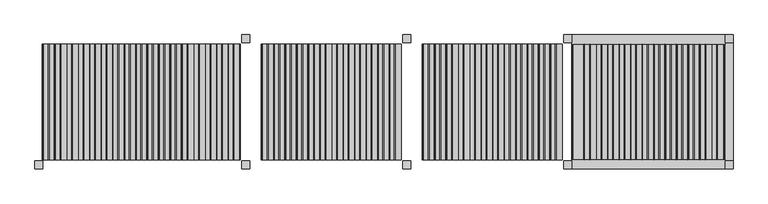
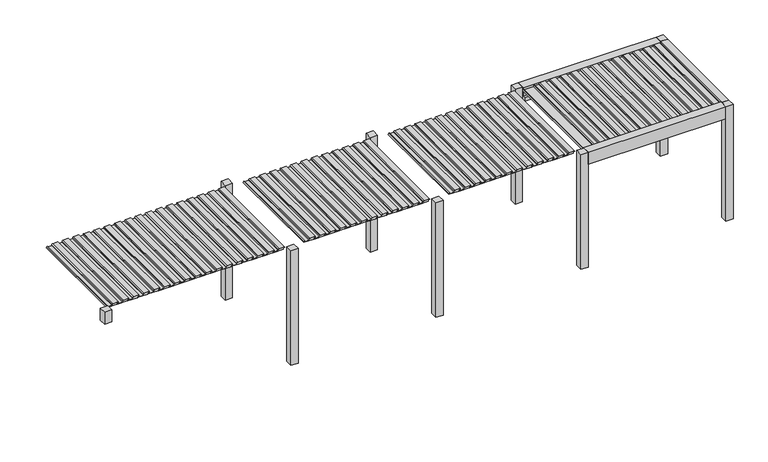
"""IFC4 building model written with IfcOpenShell, lengths in millimetres: proxy geometry, Renson_Camargue_Skye_Facade-Mounted_Patio covers : Renson_Camargue_Skye_Facade-Mounted_Patio covers."""

from ifc_helpers import new_model, si_unit, point, frame, frame_2d, origin, origin_with_axes, place, context, project, spatial, polyline, circle_curve, trimmed, segment, composite_curve, outline, extrude, source, transform, mapped, element, save


def generic_models_63c2b022(model_context):
    return source(origin(), model_context, "Body", "SweptSolid", [
        extrude(outline(composite_curve([segment(polyline([(2458.35, 10573.7289238), (2486.01198, 10576.1490335), (2487.3970364, 10604.984284), (2506.8911096, 10601.5469529), (2501.6075693, 10491.549838)]), True, "CONTINUOUS"), segment(trimmed(circle_curve(frame_2d((2486.6248435, 10492.26951)), 15.0), [point((2501.6075693, 10491.549838))], [point((2489.2295662, 10477.4973937))], False, "CARTESIAN"), True, "CONTINUOUS"), segment(polyline([(2489.2295662, 10477.4973937), (2470.0, 10474.1067023), (2470.0, 10386.3709263), (2487.0788237, 10383.3594689), (2486.3450182, 10368.0824984), (2458.35, 10365.6332517), (2458.35, 10573.7289238)]), True, "CONTINUOUS")], self_intersect=False)), frame((0.0, -1080.0, 0.0), z_axis=(0.0, 1.0, 0.0), x_axis=(0.0, 0.0, 1.0)), (0.0, 0.0, 1.0), 2160.0),
        extrude(outline(composite_curve([segment(polyline([(2458.35, 10358.7132078), (2486.01198, 10361.1333174), (2487.3970364, 10389.9685679), (2506.8911096, 10386.5312368), (2501.6075693, 10276.534122)]), True, "CONTINUOUS"), segment(trimmed(circle_curve(frame_2d((2486.6248435, 10277.2537939)), 15.0), [point((2501.6075693, 10276.534122))], [point((2489.2295662, 10262.4816776))], False, "CARTESIAN"), True, "CONTINUOUS"), segment(polyline([(2489.2295662, 10262.4816776), (2470.0, 10259.0909863), (2470.0, 10171.3552102), (2487.0788237, 10168.3437528), (2486.3450182, 10153.0667824), (2458.35, 10150.6175356), (2458.35, 10358.7132078)]), True, "CONTINUOUS")], self_intersect=False)), frame((0.0, -1080.0, 0.0), z_axis=(0.0, 1.0, 0.0), x_axis=(0.0, 0.0, 1.0)), (0.0, 0.0, 1.0), 2160.0),
        extrude(outline(composite_curve([segment(polyline([(2458.35, 10143.6974917), (2486.01198, 10146.1176014), (2487.3970364, 10174.9528519), (2506.8911096, 10171.5155208), (2501.6075693, 10061.5184059)]), True, "CONTINUOUS"), segment(trimmed(circle_curve(frame_2d((2486.6248435, 10062.2380779)), 15.0), [point((2501.6075693, 10061.5184059))], [point((2489.2295662, 10047.4659616))], False, "CARTESIAN"), True, "CONTINUOUS"), segment(polyline([(2489.2295662, 10047.4659616), (2470.0, 10044.0752702), (2470.0, 9956.3394942), (2487.0788237, 9953.3280368), (2486.3450182, 9938.0510663), (2458.35, 9935.6018196), (2458.35, 10143.6974917)]), True, "CONTINUOUS")], self_intersect=False)), frame((0.0, -1080.0, 0.0), z_axis=(0.0, 1.0, 0.0), x_axis=(0.0, 0.0, 1.0)), (0.0, 0.0, 1.0), 2160.0),
        extrude(outline(composite_curve([segment(polyline([(2458.35, 9928.6817757), (2486.01198, 9931.1018854), (2487.3970364, 9959.9371358), (2506.8911096, 9956.4998047), (2501.6075693, 9846.5026899)]), True, "CONTINUOUS"), segment(trimmed(circle_curve(frame_2d((2486.6248435, 9847.2223618)), 15.0), [point((2501.6075693, 9846.5026899))], [point((2489.2295662, 9832.4502455))], False, "CARTESIAN"), True, "CONTINUOUS"), segment(polyline([(2489.2295662, 9832.4502455), (2470.0, 9829.0595542), (2470.0, 9741.3237782), (2487.0788237, 9738.3123207), (2486.3450182, 9723.0353503), (2458.35, 9720.5861035), (2458.35, 9928.6817757)]), True, "CONTINUOUS")], self_intersect=False)), frame((0.0, -1080.0, 0.0), z_axis=(0.0, 1.0, 0.0), x_axis=(0.0, 0.0, 1.0)), (0.0, 0.0, 1.0), 2160.0),
        extrude(outline(composite_curve([segment(polyline([(2458.35, 9713.6660597), (2486.01198, 9716.0861693), (2487.3970364, 9744.9214198), (2506.8911096, 9741.4840887), (2501.6075693, 9631.4869738)]), True, "CONTINUOUS"), segment(trimmed(circle_curve(frame_2d((2486.6248435, 9632.2066458)), 15.0), [point((2501.6075693, 9631.4869738))], [point((2489.2295662, 9617.4345295))], False, "CARTESIAN"), True, "CONTINUOUS"), segment(polyline([(2489.2295662, 9617.4345295), (2470.0, 9614.0438381), (2470.0, 9526.3080621), (2487.0788237, 9523.2966047), (2486.3450182, 9508.0196342), (2458.35, 9505.5703875), (2458.35, 9713.6660597)]), True, "CONTINUOUS")], self_intersect=False)), frame((0.0, -1080.0, 0.0), z_axis=(0.0, 1.0, 0.0), x_axis=(0.0, 0.0, 1.0)), (0.0, 0.0, 1.0), 2160.0),
        extrude(outline(composite_curve([segment(polyline([(2458.35, 9498.6503436), (2486.01198, 9501.0704533), (2487.3970364, 9529.9057037), (2506.8911096, 9526.4683726), (2501.6075693, 9416.4712578)]), True, "CONTINUOUS"), segment(trimmed(circle_curve(frame_2d((2486.6248435, 9417.1909297)), 15.0), [point((2501.6075693, 9416.4712578))], [point((2489.2295662, 9402.4188134))], False, "CARTESIAN"), True, "CONTINUOUS"), segment(polyline([(2489.2295662, 9402.4188134), (2470.0, 9399.0281221), (2470.0, 9311.2923461), (2487.0788237, 9308.2808886), (2486.3450182, 9293.0039182), (2458.35, 9290.5546714), (2458.35, 9498.6503436)]), True, "CONTINUOUS")], self_intersect=False)), frame((0.0, -1080.0, 0.0), z_axis=(0.0, 1.0, 0.0), x_axis=(0.0, 0.0, 1.0)), (0.0, 0.0, 1.0), 2160.0),
        extrude(outline(composite_curve([segment(polyline([(2458.35, 9283.6346276), (2486.01198, 9286.0547372), (2487.3970364, 9314.8899877), (2506.8911096, 9311.4526566), (2501.6075693, 9201.4555418)]), True, "CONTINUOUS"), segment(trimmed(circle_curve(frame_2d((2486.6248435, 9202.1752137)), 15.0), [point((2501.6075693, 9201.4555418))], [point((2489.2295662, 9187.4030974))], False, "CARTESIAN"), True, "CONTINUOUS"), segment(polyline([(2489.2295662, 9187.4030974), (2470.0, 9184.012406), (2470.0, 9096.27663), (2487.0788237, 9093.2651726), (2486.3450182, 9077.9882021), (2458.35, 9075.5389554), (2458.35, 9283.6346276)]), True, "CONTINUOUS")], self_intersect=False)), frame((0.0, -1080.0, 0.0), z_axis=(0.0, 1.0, 0.0), x_axis=(0.0, 0.0, 1.0)), (0.0, 0.0, 1.0), 2160.0),
        extrude(outline(composite_curve([segment(polyline([(2458.35, 9068.6189115), (2486.01198, 9071.0390212), (2487.3970364, 9099.8742716), (2506.8911096, 9096.4369406), (2501.6075693, 8986.4398257)]), True, "CONTINUOUS"), segment(trimmed(circle_curve(frame_2d((2486.6248435, 8987.1594976)), 15.0), [point((2501.6075693, 8986.4398257))], [point((2489.2295662, 8972.3873813))], False, "CARTESIAN"), True, "CONTINUOUS"), segment(polyline([(2489.2295662, 8972.3873813), (2470.0, 8968.99669), (2470.0, 8881.260914), (2487.0788237, 8878.2494566), (2486.3450182, 8862.9724861), (2458.35, 8860.5232394), (2458.35, 9068.6189115)]), True, "CONTINUOUS")], self_intersect=False)), frame((0.0, -1080.0, 0.0), z_axis=(0.0, 1.0, 0.0), x_axis=(0.0, 0.0, 1.0)), (0.0, 0.0, 1.0), 2160.0),
        extrude(outline(composite_curve([segment(polyline([(2458.35, 8853.6031955), (2486.01198, 8856.0233051), (2487.3970364, 8884.8585556), (2506.8911096, 8881.4212245), (2501.6075693, 8771.4241097)]), True, "CONTINUOUS"), segment(trimmed(circle_curve(frame_2d((2486.6248435, 8772.1437816)), 15.0), [point((2501.6075693, 8771.4241097))], [point((2489.2295662, 8757.3716653))], False, "CARTESIAN"), True, "CONTINUOUS"), segment(polyline([(2489.2295662, 8757.3716653), (2470.0, 8753.980974), (2470.0, 8666.2451979), (2487.0788237, 8663.2337405), (2486.3450182, 8647.95677), (2458.35, 8645.5075233), (2458.35, 8853.6031955)]), True, "CONTINUOUS")], self_intersect=False)), frame((0.0, -1080.0, 0.0), z_axis=(0.0, 1.0, 0.0), x_axis=(0.0, 0.0, 1.0)), (0.0, 0.0, 1.0), 2160.0),
        extrude(outline(composite_curve([segment(polyline([(2458.35, 8638.5874794), (2486.01198, 8641.0075891), (2487.3970364, 8669.8428395), (2506.8911096, 8666.4055085), (2501.6075693, 8556.4083936)]), True, "CONTINUOUS"), segment(trimmed(circle_curve(frame_2d((2486.6248435, 8557.1280655)), 15.0), [point((2501.6075693, 8556.4083936))], [point((2489.2295662, 8542.3559492))], False, "CARTESIAN"), True, "CONTINUOUS"), segment(polyline([(2489.2295662, 8542.3559492), (2470.0, 8538.9652579), (2470.0, 8451.2294819), (2487.0788237, 8448.2180245), (2486.3450182, 8432.941054), (2458.35, 8430.4918073), (2458.35, 8638.5874794)]), True, "CONTINUOUS")], self_intersect=False)), frame((0.0, -1080.0, 0.0), z_axis=(0.0, 1.0, 0.0), x_axis=(0.0, 0.0, 1.0)), (0.0, 0.0, 1.0), 2160.0),
        extrude(outline(composite_curve([segment(polyline([(2458.35, 10788.7446399), (2486.01198, 10791.1647495), (2487.3970364, 10820.0), (2506.8911096, 10816.5626689), (2501.6075693, 10706.5655541)]), True, "CONTINUOUS"), segment(trimmed(circle_curve(frame_2d((2486.6248435, 10707.285226)), 15.0), [point((2501.6075693, 10706.5655541))], [point((2489.2295662, 10692.5131097))], False, "CARTESIAN"), True, "CONTINUOUS"), segment(polyline([(2489.2295662, 10692.5131097), (2470.0, 10689.1224184), (2470.0, 10601.3866423), (2487.0788237, 10598.3751849), (2486.3450182, 10583.0982144), (2458.35, 10580.6489677), (2458.35, 10788.7446399)]), True, "CONTINUOUS")], self_intersect=False)), frame((0.0, -1080.0, 0.0), z_axis=(0.0, 1.0, 0.0), x_axis=(0.0, 0.0, 1.0)), (0.0, 0.0, 1.0), 2160.0),
        extrude(outline(composite_curve([segment(polyline([(2458.35, 8423.5717634), (2486.01198, 8425.991873), (2487.3970364, 8454.8271235), (2506.8911096, 8451.3897924), (2501.6075693, 8341.3926776)]), True, "CONTINUOUS"), segment(trimmed(circle_curve(frame_2d((2486.6248435, 8342.1123495)), 15.0), [point((2501.6075693, 8341.3926776))], [point((2489.2295662, 8327.3402332))], False, "CARTESIAN"), True, "CONTINUOUS"), segment(polyline([(2489.2295662, 8327.3402332), (2470.0, 8323.9495419), (2470.0, 8236.2137658), (2487.0788237, 8233.2023084), (2486.3450182, 8217.9253379), (2458.35, 8215.4760912), (2458.35, 8423.5717634)]), True, "CONTINUOUS")], self_intersect=False)), frame((0.0, -1080.0, 0.0), z_axis=(0.0, 1.0, 0.0), x_axis=(0.0, 0.0, 1.0)), (0.0, 0.0, 1.0), 2160.0),
        extrude(outline(composite_curve([segment(polyline([(2458.35, 7573.7289238), (2486.01198, 7576.1490335), (2487.3970364, 7604.984284), (2506.8911096, 7601.5469529), (2501.6075693, 7491.549838)]), True, "CONTINUOUS"), segment(trimmed(circle_curve(frame_2d((2486.6248435, 7492.26951)), 15.0), [point((2501.6075693, 7491.549838))], [point((2489.2295662, 7477.4973937))], False, "CARTESIAN"), True, "CONTINUOUS"), segment(polyline([(2489.2295662, 7477.4973937), (2470.0, 7474.1067023), (2470.0, 7386.3709263), (2487.0788237, 7383.3594689), (2486.3450182, 7368.0824984), (2458.35, 7365.6332517), (2458.35, 7573.7289238)]), True, "CONTINUOUS")], self_intersect=False)), frame((0.0, -1080.0, 0.0), z_axis=(0.0, 1.0, 0.0), x_axis=(0.0, 0.0, 1.0)), (0.0, 0.0, 1.0), 2160.0),
        extrude(outline(composite_curve([segment(polyline([(2458.35, 7358.7132078), (2486.01198, 7361.1333174), (2487.3970364, 7389.9685679), (2506.8911096, 7386.5312368), (2501.6075693, 7276.534122)]), True, "CONTINUOUS"), segment(trimmed(circle_curve(frame_2d((2486.6248435, 7277.2537939)), 15.0), [point((2501.6075693, 7276.534122))], [point((2489.2295662, 7262.4816776))], False, "CARTESIAN"), True, "CONTINUOUS"), segment(polyline([(2489.2295662, 7262.4816776), (2470.0, 7259.0909863), (2470.0, 7171.3552102), (2487.0788237, 7168.3437528), (2486.3450182, 7153.0667824), (2458.35, 7150.6175356), (2458.35, 7358.7132078)]), True, "CONTINUOUS")], self_intersect=False)), frame((0.0, -1080.0, 0.0), z_axis=(0.0, 1.0, 0.0), x_axis=(0.0, 0.0, 1.0)), (0.0, 0.0, 1.0), 2160.0),
        extrude(outline(composite_curve([segment(polyline([(2458.35, 7143.6974917), (2486.01198, 7146.1176014), (2487.3970364, 7174.9528519), (2506.8911096, 7171.5155208), (2501.6075693, 7061.5184059)]), True, "CONTINUOUS"), segment(trimmed(circle_curve(frame_2d((2486.6248435, 7062.2380779)), 15.0), [point((2501.6075693, 7061.5184059))], [point((2489.2295662, 7047.4659616))], False, "CARTESIAN"), True, "CONTINUOUS"), segment(polyline([(2489.2295662, 7047.4659616), (2470.0, 7044.0752702), (2470.0, 6956.3394942), (2487.0788237, 6953.3280368), (2486.3450182, 6938.0510663), (2458.35, 6935.6018196), (2458.35, 7143.6974917)]), True, "CONTINUOUS")], self_intersect=False)), frame((0.0, -1080.0, 0.0), z_axis=(0.0, 1.0, 0.0), x_axis=(0.0, 0.0, 1.0)), (0.0, 0.0, 1.0), 2160.0),
        extrude(outline(composite_curve([segment(polyline([(2458.35, 6928.6817757), (2486.01198, 6931.1018854), (2487.3970364, 6959.9371358), (2506.8911096, 6956.4998047), (2501.6075693, 6846.5026899)]), True, "CONTINUOUS"), segment(trimmed(circle_curve(frame_2d((2486.6248435, 6847.2223618)), 15.0), [point((2501.6075693, 6846.5026899))], [point((2489.2295662, 6832.4502455))], False, "CARTESIAN"), True, "CONTINUOUS"), segment(polyline([(2489.2295662, 6832.4502455), (2470.0, 6829.0595542), (2470.0, 6741.3237782), (2487.0788237, 6738.3123207), (2486.3450182, 6723.0353503), (2458.35, 6720.5861035), (2458.35, 6928.6817757)]), True, "CONTINUOUS")], self_intersect=False)), frame((0.0, -1080.0, 0.0), z_axis=(0.0, 1.0, 0.0), x_axis=(0.0, 0.0, 1.0)), (0.0, 0.0, 1.0), 2160.0),
        extrude(outline(composite_curve([segment(polyline([(2458.35, 6713.6660597), (2486.01198, 6716.0861693), (2487.3970364, 6744.9214198), (2506.8911096, 6741.4840887), (2501.6075693, 6631.4869738)]), True, "CONTINUOUS"), segment(trimmed(circle_curve(frame_2d((2486.6248435, 6632.2066458)), 15.0), [point((2501.6075693, 6631.4869738))], [point((2489.2295662, 6617.4345295))], False, "CARTESIAN"), True, "CONTINUOUS"), segment(polyline([(2489.2295662, 6617.4345295), (2470.0, 6614.0438381), (2470.0, 6526.3080621), (2487.0788237, 6523.2966047), (2486.3450182, 6508.0196342), (2458.35, 6505.5703875), (2458.35, 6713.6660597)]), True, "CONTINUOUS")], self_intersect=False)), frame((0.0, -1080.0, 0.0), z_axis=(0.0, 1.0, 0.0), x_axis=(0.0, 0.0, 1.0)), (0.0, 0.0, 1.0), 2160.0),
        extrude(outline(composite_curve([segment(polyline([(2458.35, 6498.6503436), (2486.01198, 6501.0704533), (2487.3970364, 6529.9057037), (2506.8911096, 6526.4683726), (2501.6075693, 6416.4712578)]), True, "CONTINUOUS"), segment(trimmed(circle_curve(frame_2d((2486.6248435, 6417.1909297)), 15.0), [point((2501.6075693, 6416.4712578))], [point((2489.2295662, 6402.4188134))], False, "CARTESIAN"), True, "CONTINUOUS"), segment(polyline([(2489.2295662, 6402.4188134), (2470.0, 6399.0281221), (2470.0, 6311.2923461), (2487.0788237, 6308.2808886), (2486.3450182, 6293.0039182), (2458.35, 6290.5546714), (2458.35, 6498.6503436)]), True, "CONTINUOUS")], self_intersect=False)), frame((0.0, -1080.0, 0.0), z_axis=(0.0, 1.0, 0.0), x_axis=(0.0, 0.0, 1.0)), (0.0, 0.0, 1.0), 2160.0),
        extrude(outline(composite_curve([segment(polyline([(2458.35, 6283.6346276), (2486.01198, 6286.0547372), (2487.3970364, 6314.8899877), (2506.8911096, 6311.4526566), (2501.6075693, 6201.4555418)]), True, "CONTINUOUS"), segment(trimmed(circle_curve(frame_2d((2486.6248435, 6202.1752137)), 15.0), [point((2501.6075693, 6201.4555418))], [point((2489.2295662, 6187.4030974))], False, "CARTESIAN"), True, "CONTINUOUS"), segment(polyline([(2489.2295662, 6187.4030974), (2470.0, 6184.012406), (2470.0, 6096.27663), (2487.0788237, 6093.2651726), (2486.3450182, 6077.9882021), (2458.35, 6075.5389554), (2458.35, 6283.6346276)]), True, "CONTINUOUS")], self_intersect=False)), frame((0.0, -1080.0, 0.0), z_axis=(0.0, 1.0, 0.0), x_axis=(0.0, 0.0, 1.0)), (0.0, 0.0, 1.0), 2160.0),
        extrude(outline(composite_curve([segment(polyline([(2458.35, 6068.6189115), (2486.01198, 6071.0390212), (2487.3970364, 6099.8742716), (2506.8911096, 6096.4369406), (2501.6075693, 5986.4398257)]), True, "CONTINUOUS"), segment(trimmed(circle_curve(frame_2d((2486.6248435, 5987.1594976)), 15.0), [point((2501.6075693, 5986.4398257))], [point((2489.2295662, 5972.3873813))], False, "CARTESIAN"), True, "CONTINUOUS"), segment(polyline([(2489.2295662, 5972.3873813), (2470.0, 5968.99669), (2470.0, 5881.260914), (2487.0788237, 5878.2494566), (2486.3450182, 5862.9724861), (2458.35, 5860.5232394), (2458.35, 6068.6189115)]), True, "CONTINUOUS")], self_intersect=False)), frame((0.0, -1080.0, 0.0), z_axis=(0.0, 1.0, 0.0), x_axis=(0.0, 0.0, 1.0)), (0.0, 0.0, 1.0), 2160.0),
        extrude(outline(composite_curve([segment(polyline([(2458.35, 5853.6031955), (2486.01198, 5856.0233051), (2487.3970364, 5884.8585556), (2506.8911096, 5881.4212245), (2501.6075693, 5771.4241097)]), True, "CONTINUOUS"), segment(trimmed(circle_curve(frame_2d((2486.6248435, 5772.1437816)), 15.0), [point((2501.6075693, 5771.4241097))], [point((2489.2295662, 5757.3716653))], False, "CARTESIAN"), True, "CONTINUOUS"), segment(polyline([(2489.2295662, 5757.3716653), (2470.0, 5753.980974), (2470.0, 5666.2451979), (2487.0788237, 5663.2337405), (2486.3450182, 5647.95677), (2458.35, 5645.5075233), (2458.35, 5853.6031955)]), True, "CONTINUOUS")], self_intersect=False)), frame((0.0, -1080.0, 0.0), z_axis=(0.0, 1.0, 0.0), x_axis=(0.0, 0.0, 1.0)), (0.0, 0.0, 1.0), 2160.0),
        extrude(outline(composite_curve([segment(polyline([(2458.35, 5638.5874794), (2486.01198, 5641.0075891), (2487.3970364, 5669.8428395), (2506.8911096, 5666.4055085), (2501.6075693, 5556.4083936)]), True, "CONTINUOUS"), segment(trimmed(circle_curve(frame_2d((2486.6248435, 5557.1280655)), 15.0), [point((2501.6075693, 5556.4083936))], [point((2489.2295662, 5542.3559492))], False, "CARTESIAN"), True, "CONTINUOUS"), segment(polyline([(2489.2295662, 5542.3559492), (2470.0, 5538.9652579), (2470.0, 5451.2294819), (2487.0788237, 5448.2180245), (2486.3450182, 5432.941054), (2458.35, 5430.4918073), (2458.35, 5638.5874794)]), True, "CONTINUOUS")], self_intersect=False)), frame((0.0, -1080.0, 0.0), z_axis=(0.0, 1.0, 0.0), x_axis=(0.0, 0.0, 1.0)), (0.0, 0.0, 1.0), 2160.0),
        extrude(outline(composite_curve([segment(polyline([(2458.35, 7788.7446399), (2486.01198, 7791.1647495), (2487.3970364, 7820.0), (2506.8911096, 7816.5626689), (2501.6075693, 7706.5655541)]), True, "CONTINUOUS"), segment(trimmed(circle_curve(frame_2d((2486.6248435, 7707.285226)), 15.0), [point((2501.6075693, 7706.5655541))], [point((2489.2295662, 7692.5131097))], False, "CARTESIAN"), True, "CONTINUOUS"), segment(polyline([(2489.2295662, 7692.5131097), (2470.0, 7689.1224184), (2470.0, 7601.3866423), (2487.0788237, 7598.3751849), (2486.3450182, 7583.0982144), (2458.35, 7580.6489677), (2458.35, 7788.7446399)]), True, "CONTINUOUS")], self_intersect=False)), frame((0.0, -1080.0, 0.0), z_axis=(0.0, 1.0, 0.0), x_axis=(0.0, 0.0, 1.0)), (0.0, 0.0, 1.0), 2160.0),
        extrude(outline(composite_curve([segment(polyline([(2458.35, 5423.5717634), (2486.01198, 5425.991873), (2487.3970364, 5454.8271235), (2506.8911096, 5451.3897924), (2501.6075693, 5341.3926776)]), True, "CONTINUOUS"), segment(trimmed(circle_curve(frame_2d((2486.6248435, 5342.1123495)), 15.0), [point((2501.6075693, 5341.3926776))], [point((2489.2295662, 5327.3402332))], False, "CARTESIAN"), True, "CONTINUOUS"), segment(polyline([(2489.2295662, 5327.3402332), (2470.0, 5323.9495419), (2470.0, 5236.2137658), (2487.0788237, 5233.2023084), (2486.3450182, 5217.9253379), (2458.35, 5215.4760912), (2458.35, 5423.5717634)]), True, "CONTINUOUS")], self_intersect=False)), frame((0.0, -1080.0, 0.0), z_axis=(0.0, 1.0, 0.0), x_axis=(0.0, 0.0, 1.0)), (0.0, 0.0, 1.0), 2160.0),
        extrude(outline(composite_curve([segment(polyline([(2458.35, 4573.7289238), (2486.01198, 4576.1490335), (2487.3970364, 4604.984284), (2506.8911096, 4601.5469529), (2501.6075693, 4491.549838)]), True, "CONTINUOUS"), segment(trimmed(circle_curve(frame_2d((2486.6248435, 4492.26951)), 15.0), [point((2501.6075693, 4491.549838))], [point((2489.2295662, 4477.4973937))], False, "CARTESIAN"), True, "CONTINUOUS"), segment(polyline([(2489.2295662, 4477.4973937), (2470.0, 4474.1067023), (2470.0, 4386.3709263), (2487.0788237, 4383.3594689), (2486.3450182, 4368.0824984), (2458.35, 4365.6332517), (2458.35, 4573.7289238)]), True, "CONTINUOUS")], self_intersect=False)), frame((0.0, -1080.0, 0.0), z_axis=(0.0, 1.0, 0.0), x_axis=(0.0, 0.0, 1.0)), (0.0, 0.0, 1.0), 2160.0),
        extrude(outline(composite_curve([segment(polyline([(2458.35, 4358.7132078), (2486.01198, 4361.1333174), (2487.3970364, 4389.9685679), (2506.8911096, 4386.5312368), (2501.6075693, 4276.534122)]), True, "CONTINUOUS"), segment(trimmed(circle_curve(frame_2d((2486.6248435, 4277.2537939)), 15.0), [point((2501.6075693, 4276.534122))], [point((2489.2295662, 4262.4816776))], False, "CARTESIAN"), True, "CONTINUOUS"), segment(polyline([(2489.2295662, 4262.4816776), (2470.0, 4259.0909863), (2470.0, 4171.3552102), (2487.0788237, 4168.3437528), (2486.3450182, 4153.0667824), (2458.35, 4150.6175356), (2458.35, 4358.7132078)]), True, "CONTINUOUS")], self_intersect=False)), frame((0.0, -1080.0, 0.0), z_axis=(0.0, 1.0, 0.0), x_axis=(0.0, 0.0, 1.0)), (0.0, 0.0, 1.0), 2160.0),
        extrude(outline(composite_curve([segment(polyline([(2458.35, 4143.6974917), (2486.01198, 4146.1176014), (2487.3970364, 4174.9528519), (2506.8911096, 4171.5155208), (2501.6075693, 4061.5184059)]), True, "CONTINUOUS"), segment(trimmed(circle_curve(frame_2d((2486.6248435, 4062.2380779)), 15.0), [point((2501.6075693, 4061.5184059))], [point((2489.2295662, 4047.4659616))], False, "CARTESIAN"), True, "CONTINUOUS"), segment(polyline([(2489.2295662, 4047.4659616), (2470.0, 4044.0752702), (2470.0, 3956.3394942), (2487.0788237, 3953.3280368), (2486.3450182, 3938.0510663), (2458.35, 3935.6018196), (2458.35, 4143.6974917)]), True, "CONTINUOUS")], self_intersect=False)), frame((0.0, -1080.0, 0.0), z_axis=(0.0, 1.0, 0.0), x_axis=(0.0, 0.0, 1.0)), (0.0, 0.0, 1.0), 2160.0),
        extrude(outline(composite_curve([segment(polyline([(2458.35, 3928.6817757), (2486.01198, 3931.1018854), (2487.3970364, 3959.9371358), (2506.8911096, 3956.4998047), (2501.6075693, 3846.5026899)]), True, "CONTINUOUS"), segment(trimmed(circle_curve(frame_2d((2486.6248435, 3847.2223618)), 15.0), [point((2501.6075693, 3846.5026899))], [point((2489.2295662, 3832.4502455))], False, "CARTESIAN"), True, "CONTINUOUS"), segment(polyline([(2489.2295662, 3832.4502455), (2470.0, 3829.0595542), (2470.0, 3741.3237782), (2487.0788237, 3738.3123207), (2486.3450182, 3723.0353503), (2458.35, 3720.5861035), (2458.35, 3928.6817757)]), True, "CONTINUOUS")], self_intersect=False)), frame((0.0, -1080.0, 0.0), z_axis=(0.0, 1.0, 0.0), x_axis=(0.0, 0.0, 1.0)), (0.0, 0.0, 1.0), 2160.0),
        extrude(outline(composite_curve([segment(polyline([(2458.35, 3713.6660597), (2486.01198, 3716.0861693), (2487.3970364, 3744.9214198), (2506.8911096, 3741.4840887), (2501.6075693, 3631.4869738)]), True, "CONTINUOUS"), segment(trimmed(circle_curve(frame_2d((2486.6248435, 3632.2066458)), 15.0), [point((2501.6075693, 3631.4869738))], [point((2489.2295662, 3617.4345295))], False, "CARTESIAN"), True, "CONTINUOUS"), segment(polyline([(2489.2295662, 3617.4345295), (2470.0, 3614.0438381), (2470.0, 3526.3080621), (2487.0788237, 3523.2966047), (2486.3450182, 3508.0196342), (2458.35, 3505.5703875), (2458.35, 3713.6660597)]), True, "CONTINUOUS")], self_intersect=False)), frame((0.0, -1080.0, 0.0), z_axis=(0.0, 1.0, 0.0), x_axis=(0.0, 0.0, 1.0)), (0.0, 0.0, 1.0), 2160.0),
        extrude(outline(composite_curve([segment(polyline([(2458.35, 3498.6503436), (2486.01198, 3501.0704533), (2487.3970364, 3529.9057037), (2506.8911096, 3526.4683726), (2501.6075693, 3416.4712578)]), True, "CONTINUOUS"), segment(trimmed(circle_curve(frame_2d((2486.6248435, 3417.1909297)), 15.0), [point((2501.6075693, 3416.4712578))], [point((2489.2295662, 3402.4188134))], False, "CARTESIAN"), True, "CONTINUOUS"), segment(polyline([(2489.2295662, 3402.4188134), (2470.0, 3399.0281221), (2470.0, 3311.2923461), (2487.0788237, 3308.2808886), (2486.3450182, 3293.0039182), (2458.35, 3290.5546714), (2458.35, 3498.6503436)]), True, "CONTINUOUS")], self_intersect=False)), frame((0.0, -1080.0, 0.0), z_axis=(0.0, 1.0, 0.0), x_axis=(0.0, 0.0, 1.0)), (0.0, 0.0, 1.0), 2160.0),
        extrude(outline(composite_curve([segment(polyline([(2458.35, 3283.6346276), (2486.01198, 3286.0547372), (2487.3970364, 3314.8899877), (2506.8911096, 3311.4526566), (2501.6075693, 3201.4555418)]), True, "CONTINUOUS"), segment(trimmed(circle_curve(frame_2d((2486.6248435, 3202.1752137)), 15.0), [point((2501.6075693, 3201.4555418))], [point((2489.2295662, 3187.4030974))], False, "CARTESIAN"), True, "CONTINUOUS"), segment(polyline([(2489.2295662, 3187.4030974), (2470.0, 3184.012406), (2470.0, 3096.27663), (2487.0788237, 3093.2651726), (2486.3450182, 3077.9882021), (2458.35, 3075.5389554), (2458.35, 3283.6346276)]), True, "CONTINUOUS")], self_intersect=False)), frame((0.0, -1080.0, 0.0), z_axis=(0.0, 1.0, 0.0), x_axis=(0.0, 0.0, 1.0)), (0.0, 0.0, 1.0), 2160.0),
        extrude(outline(composite_curve([segment(polyline([(2458.35, 3068.6189115), (2486.01198, 3071.0390212), (2487.3970364, 3099.8742716), (2506.8911096, 3096.4369406), (2501.6075693, 2986.4398257)]), True, "CONTINUOUS"), segment(trimmed(circle_curve(frame_2d((2486.6248435, 2987.1594976)), 15.0), [point((2501.6075693, 2986.4398257))], [point((2489.2295662, 2972.3873813))], False, "CARTESIAN"), True, "CONTINUOUS"), segment(polyline([(2489.2295662, 2972.3873813), (2470.0, 2968.99669), (2470.0, 2881.260914), (2487.0788237, 2878.2494566), (2486.3450182, 2862.9724861), (2458.35, 2860.5232394), (2458.35, 3068.6189115)]), True, "CONTINUOUS")], self_intersect=False)), frame((0.0, -1080.0, 0.0), z_axis=(0.0, 1.0, 0.0), x_axis=(0.0, 0.0, 1.0)), (0.0, 0.0, 1.0), 2160.0),
        extrude(outline(composite_curve([segment(polyline([(2458.35, 2853.6031955), (2486.01198, 2856.0233051), (2487.3970364, 2884.8585556), (2506.8911096, 2881.4212245), (2501.6075693, 2771.4241097)]), True, "CONTINUOUS"), segment(trimmed(circle_curve(frame_2d((2486.6248435, 2772.1437816)), 15.0), [point((2501.6075693, 2771.4241097))], [point((2489.2295662, 2757.3716653))], False, "CARTESIAN"), True, "CONTINUOUS"), segment(polyline([(2489.2295662, 2757.3716653), (2470.0, 2753.980974), (2470.0, 2666.2451979), (2487.0788237, 2663.2337405), (2486.3450182, 2647.95677), (2458.35, 2645.5075233), (2458.35, 2853.6031955)]), True, "CONTINUOUS")], self_intersect=False)), frame((0.0, -1080.0, 0.0), z_axis=(0.0, 1.0, 0.0), x_axis=(0.0, 0.0, 1.0)), (0.0, 0.0, 1.0), 2160.0),
        extrude(outline(composite_curve([segment(polyline([(2458.35, 2638.5874794), (2486.01198, 2641.0075891), (2487.3970364, 2669.8428395), (2506.8911096, 2666.4055085), (2501.6075693, 2556.4083936)]), True, "CONTINUOUS"), segment(trimmed(circle_curve(frame_2d((2486.6248435, 2557.1280655)), 15.0), [point((2501.6075693, 2556.4083936))], [point((2489.2295662, 2542.3559492))], False, "CARTESIAN"), True, "CONTINUOUS"), segment(polyline([(2489.2295662, 2542.3559492), (2470.0, 2538.9652579), (2470.0, 2451.2294819), (2487.0788237, 2448.2180245), (2486.3450182, 2432.941054), (2458.35, 2430.4918073), (2458.35, 2638.5874794)]), True, "CONTINUOUS")], self_intersect=False)), frame((0.0, -1080.0, 0.0), z_axis=(0.0, 1.0, 0.0), x_axis=(0.0, 0.0, 1.0)), (0.0, 0.0, 1.0), 2160.0),
        extrude(outline(composite_curve([segment(polyline([(2458.35, 4788.7446399), (2486.01198, 4791.1647495), (2487.3970364, 4820.0), (2506.8911096, 4816.5626689), (2501.6075693, 4706.5655541)]), True, "CONTINUOUS"), segment(trimmed(circle_curve(frame_2d((2486.6248435, 4707.285226)), 15.0), [point((2501.6075693, 4706.5655541))], [point((2489.2295662, 4692.5131097))], False, "CARTESIAN"), True, "CONTINUOUS"), segment(polyline([(2489.2295662, 4692.5131097), (2470.0, 4689.1224184), (2470.0, 4601.3866423), (2487.0788237, 4598.3751849), (2486.3450182, 4583.0982144), (2458.35, 4580.6489677), (2458.35, 4788.7446399)]), True, "CONTINUOUS")], self_intersect=False)), frame((0.0, -1080.0, 0.0), z_axis=(0.0, 1.0, 0.0), x_axis=(0.0, 0.0, 1.0)), (0.0, 0.0, 1.0), 2160.0),
        extrude(outline(composite_curve([segment(polyline([(2458.35, 2423.5717634), (2486.01198, 2425.991873), (2487.3970364, 2454.8271235), (2506.8911096, 2451.3897924), (2501.6075693, 2341.3926776)]), True, "CONTINUOUS"), segment(trimmed(circle_curve(frame_2d((2486.6248435, 2342.1123495)), 15.0), [point((2501.6075693, 2341.3926776))], [point((2489.2295662, 2327.3402332))], False, "CARTESIAN"), True, "CONTINUOUS"), segment(polyline([(2489.2295662, 2327.3402332), (2470.0, 2323.9495419), (2470.0, 2236.2137658), (2487.0788237, 2233.2023084), (2486.3450182, 2217.9253379), (2458.35, 2215.4760912), (2458.35, 2423.5717634)]), True, "CONTINUOUS")], self_intersect=False)), frame((0.0, -1080.0, 0.0), z_axis=(0.0, 1.0, 0.0), x_axis=(0.0, 0.0, 1.0)), (0.0, 0.0, 1.0), 2160.0),
        extrude(outline(composite_curve([segment(polyline([(2458.35, 1573.7338351), (2486.01198, 1576.1539448), (2487.3970364, 1604.9891952), (2506.8911096, 1601.5518641), (2501.6075693, 1491.5547493)]), True, "CONTINUOUS"), segment(trimmed(circle_curve(frame_2d((2486.6248435, 1492.2744212)), 15.0), [point((2501.6075693, 1491.5547493))], [point((2489.2295662, 1477.5023049))], False, "CARTESIAN"), True, "CONTINUOUS"), segment(polyline([(2489.2295662, 1477.5023049), (2470.0, 1474.1116136), (2470.0, 1386.3758376), (2487.0788237, 1383.3643801), (2486.3450182, 1368.0874097), (2458.35, 1365.6381629), (2458.35, 1573.7338351)]), True, "CONTINUOUS")], self_intersect=False)), frame((0.0, -1080.0, 0.0), z_axis=(0.0, 1.0, 0.0), x_axis=(0.0, 0.0, 1.0)), (0.0, 0.0, 1.0), 2160.0),
        extrude(outline(composite_curve([segment(polyline([(2458.35, 1358.7230303), (2486.01198, 1361.14314), (2487.3970364, 1389.9783904), (2506.8911096, 1386.5410594), (2501.6075693, 1276.5439445)]), True, "CONTINUOUS"), segment(trimmed(circle_curve(frame_2d((2486.6248435, 1277.2636164)), 15.0), [point((2501.6075693, 1276.5439445))], [point((2489.2295662, 1262.4915001))], False, "CARTESIAN"), True, "CONTINUOUS"), segment(polyline([(2489.2295662, 1262.4915001), (2470.0, 1259.1008088), (2470.0, 1171.3650328), (2487.0788237, 1168.3535754), (2486.3450182, 1153.0766049), (2458.35, 1150.6273582), (2458.35, 1358.7230303)]), True, "CONTINUOUS")], self_intersect=False)), frame((0.0, -1080.0, 0.0), z_axis=(0.0, 1.0, 0.0), x_axis=(0.0, 0.0, 1.0)), (0.0, 0.0, 1.0), 2160.0),
        extrude(outline(composite_curve([segment(polyline([(2458.35, 1143.7122255), (2486.01198, 1146.1323352), (2487.3970364, 1174.9675857), (2506.8911096, 1171.5302546), (2501.6075693, 1061.5331397)]), True, "CONTINUOUS"), segment(trimmed(circle_curve(frame_2d((2486.6248435, 1062.2528117)), 15.0), [point((2501.6075693, 1061.5331397))], [point((2489.2295662, 1047.4806954))], False, "CARTESIAN"), True, "CONTINUOUS"), segment(polyline([(2489.2295662, 1047.4806954), (2470.0, 1044.090004), (2470.0, 956.354228), (2487.0788237, 953.3427706), (2486.3450182, 938.0658001), (2458.35, 935.6165534), (2458.35, 1143.7122255)]), True, "CONTINUOUS")], self_intersect=False)), frame((0.0, -1080.0, 0.0), z_axis=(0.0, 1.0, 0.0), x_axis=(0.0, 0.0, 1.0)), (0.0, 0.0, 1.0), 2160.0),
        extrude(outline(composite_curve([segment(polyline([(2458.35, 928.7014208), (2486.01198, 931.1215304), (2487.3970364, 959.9567809), (2506.8911096, 956.5194498), (2501.6075693, 846.5223349)]), True, "CONTINUOUS"), segment(trimmed(circle_curve(frame_2d((2486.6248435, 847.2420069)), 15.0), [point((2501.6075693, 846.5223349))], [point((2489.2295662, 832.4698906))], False, "CARTESIAN"), True, "CONTINUOUS"), segment(polyline([(2489.2295662, 832.4698906), (2470.0, 829.0791992), (2470.0, 741.3434232), (2487.0788237, 738.3319658), (2486.3450182, 723.0549953), (2458.35, 720.6057486), (2458.35, 928.7014208)]), True, "CONTINUOUS")], self_intersect=False)), frame((0.0, -1080.0, 0.0), z_axis=(0.0, 1.0, 0.0), x_axis=(0.0, 0.0, 1.0)), (0.0, 0.0, 1.0), 2160.0),
        extrude(outline(composite_curve([segment(polyline([(2458.35, 713.690616), (2486.01198, 716.1107256), (2487.3970364, 744.9459761), (2506.8911096, 741.508645), (2501.6075693, 631.5115302)]), True, "CONTINUOUS"), segment(trimmed(circle_curve(frame_2d((2486.6248435, 632.2312021)), 15.0), [point((2501.6075693, 631.5115302))], [point((2489.2295662, 617.4590858))], False, "CARTESIAN"), True, "CONTINUOUS"), segment(polyline([(2489.2295662, 617.4590858), (2470.0, 614.0683945), (2470.0, 526.3326184), (2487.0788237, 523.321161), (2486.3450182, 508.0441905), (2458.35, 505.5949438), (2458.35, 713.690616)]), True, "CONTINUOUS")], self_intersect=False)), frame((0.0, -1080.0, 0.0), z_axis=(0.0, 1.0, 0.0), x_axis=(0.0, 0.0, 1.0)), (0.0, 0.0, 1.0), 2160.0),
        extrude(outline(composite_curve([segment(polyline([(2458.35, 498.6798112), (2486.01198, 501.0999209), (2487.3970364, 529.9351713), (2506.8911096, 526.4978402), (2501.6075693, 416.5007254)]), True, "CONTINUOUS"), segment(trimmed(circle_curve(frame_2d((2486.6248435, 417.2203973)), 15.0), [point((2501.6075693, 416.5007254))], [point((2489.2295662, 402.448281))], False, "CARTESIAN"), True, "CONTINUOUS"), segment(polyline([(2489.2295662, 402.448281), (2470.0, 399.0575897), (2470.0, 311.3218136), (2487.0788237, 308.3103562), (2486.3450182, 293.0333858), (2458.35, 290.584139), (2458.35, 498.6798112)]), True, "CONTINUOUS")], self_intersect=False)), frame((0.0, -1080.0, 0.0), z_axis=(0.0, 1.0, 0.0), x_axis=(0.0, 0.0, 1.0)), (0.0, 0.0, 1.0), 2160.0),
        extrude(outline(composite_curve([segment(polyline([(2458.35, 283.6690064), (2486.01198, 286.0891161), (2487.3970364, 314.9243665), (2506.8911096, 311.4870355), (2501.6075693, 201.4899206)]), True, "CONTINUOUS"), segment(trimmed(circle_curve(frame_2d((2486.6248435, 202.2095925)), 15.0), [point((2501.6075693, 201.4899206))], [point((2489.2295662, 187.4374762))], False, "CARTESIAN"), True, "CONTINUOUS"), segment(polyline([(2489.2295662, 187.4374762), (2470.0, 184.0467849), (2470.0, 96.3110089), (2487.0788237, 93.2995515), (2486.3450182, 78.022581), (2458.35, 75.5733343), (2458.35, 283.6690064)]), True, "CONTINUOUS")], self_intersect=False)), frame((0.0, -1080.0, 0.0), z_axis=(0.0, 1.0, 0.0), x_axis=(0.0, 0.0, 1.0)), (0.0, 0.0, 1.0), 2160.0),
        extrude(outline(composite_curve([segment(polyline([(2458.35, 68.6582016), (2486.01198, 71.0783113), (2487.3970364, 99.9135617), (2506.8911096, 96.4762307), (2501.6075693, -13.5208842)]), True, "CONTINUOUS"), segment(trimmed(circle_curve(frame_2d((2486.6248435, -12.8012122)), 15.0), [point((2501.6075693, -13.5208842))], [point((2489.2295662, -27.5733285))], False, "CARTESIAN"), True, "CONTINUOUS"), segment(polyline([(2489.2295662, -27.5733285), (2470.0, -30.9640199), (2470.0, -118.6997959), (2487.0788237, -121.7112533), (2486.3450182, -136.9882238), (2458.35, -139.4374705), (2458.35, 68.6582016)]), True, "CONTINUOUS")], self_intersect=False)), frame((0.0, -1080.0, 0.0), z_axis=(0.0, 1.0, 0.0), x_axis=(0.0, 0.0, 1.0)), (0.0, 0.0, 1.0), 2160.0),
        extrude(outline(composite_curve([segment(polyline([(2458.35, -146.3526032), (2486.01198, -143.9324935), (2487.3970364, -115.097243), (2506.8911096, -118.5345741), (2501.6075693, -228.531689)]), True, "CONTINUOUS"), segment(trimmed(circle_curve(frame_2d((2486.6248435, -227.812017)), 15.0), [point((2501.6075693, -228.531689))], [point((2489.2295662, -242.5841333))], False, "CARTESIAN"), True, "CONTINUOUS"), segment(polyline([(2489.2295662, -242.5841333), (2470.0, -245.9748247), (2470.0, -333.7106007), (2487.0788237, -336.7220581), (2486.3450182, -351.9990286), (2458.35, -354.4482753), (2458.35, -146.3526032)]), True, "CONTINUOUS")], self_intersect=False)), frame((0.0, -1080.0, 0.0), z_axis=(0.0, 1.0, 0.0), x_axis=(0.0, 0.0, 1.0)), (0.0, 0.0, 1.0), 2160.0),
        extrude(outline(composite_curve([segment(polyline([(2458.35, -361.3634079), (2486.01198, -358.9432983), (2487.3970364, -330.1080478), (2506.8911096, -333.5453789), (2501.6075693, -443.5424937)]), True, "CONTINUOUS"), segment(trimmed(circle_curve(frame_2d((2486.6248435, -442.8228218)), 15.0), [point((2501.6075693, -443.5424937))], [point((2489.2295662, -457.5949381))], False, "CARTESIAN"), True, "CONTINUOUS"), segment(polyline([(2489.2295662, -457.5949381), (2470.0, -460.9856294), (2470.0, -548.7214055), (2487.0788237, -551.7328629), (2486.3450182, -567.0098334), (2458.35, -569.4590801), (2458.35, -361.3634079)]), True, "CONTINUOUS")], self_intersect=False)), frame((0.0, -1080.0, 0.0), z_axis=(0.0, 1.0, 0.0), x_axis=(0.0, 0.0, 1.0)), (0.0, 0.0, 1.0), 2160.0),
        extrude(outline(composite_curve([segment(polyline([(2458.35, -576.3742127), (2486.01198, -573.9541031), (2487.3970364, -545.1188526), (2506.8911096, -548.5561837), (2501.6075693, -658.5532985)]), True, "CONTINUOUS"), segment(trimmed(circle_curve(frame_2d((2486.6248435, -657.8336266)), 15.0), [point((2501.6075693, -658.5532985))], [point((2489.2295662, -672.6057429))], False, "CARTESIAN"), True, "CONTINUOUS"), segment(polyline([(2489.2295662, -672.6057429), (2470.0, -675.9964342), (2470.0, -763.7322103), (2487.0788237, -766.7436677), (2486.3450182, -782.0206381), (2458.35, -784.4698849), (2458.35, -576.3742127)]), True, "CONTINUOUS")], self_intersect=False)), frame((0.0, -1080.0, 0.0), z_axis=(0.0, 1.0, 0.0), x_axis=(0.0, 0.0, 1.0)), (0.0, 0.0, 1.0), 2160.0),
        extrude(outline(composite_curve([segment(polyline([(2458.35, -791.3850175), (2486.01198, -788.9649078), (2487.3970364, -760.1296574), (2506.8911096, -763.5669885), (2501.6075693, -873.5641033)]), True, "CONTINUOUS"), segment(trimmed(circle_curve(frame_2d((2486.6248435, -872.8444314)), 15.0), [point((2501.6075693, -873.5641033))], [point((2489.2295662, -887.6165477))], False, "CARTESIAN"), True, "CONTINUOUS"), segment(polyline([(2489.2295662, -887.6165477), (2470.0, -891.007239), (2470.0, -978.743015), (2487.0788237, -981.7544725), (2486.3450182, -997.0314429), (2458.35, -999.4806897), (2458.35, -791.3850175)]), True, "CONTINUOUS")], self_intersect=False)), frame((0.0, -1080.0, 0.0), z_axis=(0.0, 1.0, 0.0), x_axis=(0.0, 0.0, 1.0)), (0.0, 0.0, 1.0), 2160.0),
        extrude(outline(composite_curve([segment(polyline([(2458.35, -1006.3958223), (2486.01198, -1003.9757126), (2487.3970364, -975.1404622), (2506.8911096, -978.5777932), (2501.6075693, -1088.5749081)]), True, "CONTINUOUS"), segment(trimmed(circle_curve(frame_2d((2486.6248435, -1087.8552362)), 15.0), [point((2501.6075693, -1088.5749081))], [point((2489.2295662, -1102.6273525))], False, "CARTESIAN"), True, "CONTINUOUS"), segment(polyline([(2489.2295662, -1102.6273525), (2470.0, -1106.0180438), (2470.0, -1193.7538198), (2487.0788237, -1196.7652772), (2486.3450182, -1212.0422477), (2458.35, -1214.4914944), (2458.35, -1006.3958223)]), True, "CONTINUOUS")], self_intersect=False)), frame((0.0, -1080.0, 0.0), z_axis=(0.0, 1.0, 0.0), x_axis=(0.0, 0.0, 1.0)), (0.0, 0.0, 1.0), 2160.0),
        extrude(outline(composite_curve([segment(polyline([(2458.35, -1221.4066271), (2486.01198, -1218.9865174), (2487.3970364, -1190.1512669), (2506.8911096, -1193.588598), (2501.6075693, -1303.5857129)]), True, "CONTINUOUS"), segment(trimmed(circle_curve(frame_2d((2486.6248435, -1302.8660409)), 15.0), [point((2501.6075693, -1303.5857129))], [point((2489.2295662, -1317.6381572))], False, "CARTESIAN"), True, "CONTINUOUS"), segment(polyline([(2489.2295662, -1317.6381572), (2470.0, -1321.0288486), (2470.0, -1408.7646246), (2487.0788237, -1411.776082), (2486.3450182, -1427.0530525), (2458.35, -1429.5022992), (2458.35, -1221.4066271)]), True, "CONTINUOUS")], self_intersect=False)), frame((0.0, -1080.0, 0.0), z_axis=(0.0, 1.0, 0.0), x_axis=(0.0, 0.0, 1.0)), (0.0, 0.0, 1.0), 2160.0),
        extrude(outline(composite_curve([segment(polyline([(2458.35, -1436.4174318), (2486.01198, -1433.9973222), (2487.3970364, -1405.1620717), (2506.8911096, -1408.5994028), (2501.6075693, -1518.5965176)]), True, "CONTINUOUS"), segment(trimmed(circle_curve(frame_2d((2486.6248435, -1517.8768457)), 15.0), [point((2501.6075693, -1518.5965176))], [point((2489.2295662, -1532.648962))], False, "CARTESIAN"), True, "CONTINUOUS"), segment(polyline([(2489.2295662, -1532.648962), (2470.0, -1536.0396534), (2470.0, -1623.7754294), (2487.0788237, -1626.7868868), (2486.3450182, -1642.0638573), (2458.35, -1644.513104), (2458.35, -1436.4174318)]), True, "CONTINUOUS")], self_intersect=False)), frame((0.0, -1080.0, 0.0), z_axis=(0.0, 1.0, 0.0), x_axis=(0.0, 0.0, 1.0)), (0.0, 0.0, 1.0), 2160.0),
        extrude(outline(composite_curve([segment(polyline([(2458.35, 1788.7446399), (2486.01198, 1791.1647495), (2487.3970364, 1820.0), (2506.8911096, 1816.5626689), (2501.6075693, 1706.5655541)]), True, "CONTINUOUS"), segment(trimmed(circle_curve(frame_2d((2486.6248435, 1707.285226)), 15.0), [point((2501.6075693, 1706.5655541))], [point((2489.2295662, 1692.5131097))], False, "CARTESIAN"), True, "CONTINUOUS"), segment(polyline([(2489.2295662, 1692.5131097), (2470.0, 1689.1224184), (2470.0, 1601.3866423), (2487.0788237, 1598.3751849), (2486.3450182, 1583.0982144), (2458.35, 1580.6489677), (2458.35, 1788.7446399)]), True, "CONTINUOUS")], self_intersect=False)), frame((0.0, -1080.0, 0.0), z_axis=(0.0, 1.0, 0.0), x_axis=(0.0, 0.0, 1.0)), (0.0, 0.0, 1.0), 2160.0),
        extrude(outline(composite_curve([segment(polyline([(2458.35, -1651.4282366), (2486.01198, -1649.008127), (2487.3970364, -1620.1728765), (2506.8911096, -1623.6102076), (2501.6075693, -1733.6073224)]), True, "CONTINUOUS"), segment(trimmed(circle_curve(frame_2d((2486.6248435, -1732.8876505)), 15.0), [point((2501.6075693, -1733.6073224))], [point((2489.2295662, -1747.6597668))], False, "CARTESIAN"), True, "CONTINUOUS"), segment(polyline([(2489.2295662, -1747.6597668), (2470.0, -1751.0504581), (2470.0, -1838.7862342), (2487.0788237, -1841.7976916), (2486.3450182, -1857.0746621), (2458.35, -1859.5239088), (2458.35, -1651.4282366)]), True, "CONTINUOUS")], self_intersect=False)), frame((0.0, -1080.0, 0.0), z_axis=(0.0, 1.0, 0.0), x_axis=(0.0, 0.0, 1.0)), (0.0, 0.0, 1.0), 2160.0),
        extrude(outline(polyline([(-1850.0, -1250.0), (-2000.0, -1250.0), (-2000.0, -1100.0), (-1850.0, -1100.0), (-1850.0, -1250.0)])), frame((0.0, 0.0, 2250.0), z_axis=(0.0, 0.0, 1.0), x_axis=(1.0, 0.0, 0.0)), (0.0, 0.0, 1.0), 260.0),
        extrude(outline(polyline([(11000.0, 1100.0), (10850.0, 1100.0), (10850.0, 1250.0), (11000.0, 1250.0), (11000.0, 1100.0)])), origin_with_axes(), (0.0, 0.0, 1.0), 2510.0),
        extrude(outline(polyline([(8000.0, 1100.0), (7850.0, 1100.0), (7850.0, 1250.0), (8000.0, 1250.0), (8000.0, 1100.0)])), origin_with_axes(), (0.0, 0.0, 1.0), 2510.0),
        extrude(outline(polyline([(5000.0, 1100.0), (4850.0, 1100.0), (4850.0, 1250.0), (5000.0, 1250.0), (5000.0, 1100.0)])), origin_with_axes(), (0.0, 0.0, 1.0), 2510.0),
        extrude(outline(polyline([(2000.0, 1100.0), (1850.0, 1100.0), (1850.0, 1250.0), (2000.0, 1250.0), (2000.0, 1100.0)])), origin_with_axes(), (0.0, 0.0, 1.0), 2510.0),
        extrude(outline(polyline([(11000.0, -1250.0), (10850.0, -1250.0), (10850.0, -1100.0), (11000.0, -1100.0), (11000.0, -1250.0)])), origin_with_axes(), (0.0, 0.0, 1.0), 2510.0),
        extrude(outline(polyline([(8000.0, -1250.0), (7850.0, -1250.0), (7850.0, -1100.0), (8000.0, -1100.0), (8000.0, -1250.0)])), origin_with_axes(), (0.0, 0.0, 1.0), 2510.0),
        extrude(outline(polyline([(5000.0, -1250.0), (4850.0, -1250.0), (4850.0, -1100.0), (5000.0, -1100.0), (5000.0, -1250.0)])), origin_with_axes(), (0.0, 0.0, 1.0), 2510.0),
        extrude(outline(polyline([(2000.0, -1250.0), (1850.0, -1250.0), (1850.0, -1100.0), (2000.0, -1100.0), (2000.0, -1250.0)])), origin_with_axes(), (0.0, 0.0, 1.0), 2510.0),
        extrude(outline(polyline([(2441.6559373, 8000.0), (2441.6559373, 8210.0), (2455.6555802, 8213.7512887), (2455.6555802, 8020.4059055), (2471.400763, 8005.0), (2479.2449277, 8005.0), (2479.6823598, 8000.0), (2441.6559373, 8000.0)])), frame((0.0, -1100.0, 0.0), z_axis=(0.0, 1.0, 0.0), x_axis=(0.0, 0.0, 1.0)), (0.0, 0.0, 1.0), 2200.0),
        extrude(outline(polyline([(1080.0, 2510.0), (1250.0, 2510.0), (1250.0, 2250.0), (1020.0, 2250.0), (1020.0, 2322.0), (1080.0, 2322.0), (1080.0, 2510.0)])), frame((8000.0, 0.0, 0.0), z_axis=(1.0, 0.0, 0.0), x_axis=(0.0, 1.0, 0.0)), (0.0, 0.0, 1.0), 2850.0),
        extrude(outline(polyline([(-1250.0, 2250.0), (-1250.0, 2510.0), (-1080.0, 2510.0), (-1080.0, 2322.0), (-1020.0, 2322.0), (-1020.0, 2250.0), (-1250.0, 2250.0)])), frame((8000.0, 0.0, 0.0), z_axis=(1.0, 0.0, 0.0), x_axis=(0.0, 1.0, 0.0)), (0.0, 0.0, 1.0), 2850.0),
        extrude(outline(polyline([(11000.0, 1100.0), (10850.0, 1100.0), (10850.0, 1250.0), (11000.0, 1250.0), (11000.0, 1100.0)])), frame((0.0, 0.0, 2250.0), z_axis=(0.0, 0.0, 1.0), x_axis=(1.0, 0.0, 0.0)), (0.0, 0.0, 1.0), 260.0),
        extrude(outline(polyline([(2510.0, 11000.0), (2510.0, 10850.0), (2479.6823598, 10850.0), (2479.2449277, 10845.0), (2471.400763, 10845.0), (2455.6555802, 10829.2544156), (2455.6555802, 10819.9090324), (2441.6559373, 10823.6603211), (2441.6559373, 10850.0), (2250.0, 10850.0), (2250.0, 11000.0), (2510.0, 11000.0)])), frame((0.0, -1100.0, 0.0), z_axis=(0.0, 1.0, 0.0), x_axis=(0.0, 0.0, 1.0)), (0.0, 0.0, 1.0), 2200.0),
    ])


if __name__ == "__main__":
    model = new_model("IFC4")
    model_context = context("Model", 3, world=origin())
    ifc_project = project(units=[si_unit("LENGTHUNIT", "METRE", prefix="MILLI")], contexts=[model_context])
    site = spatial("IfcSite", under=ifc_project)
    building = spatial("IfcBuilding", under=site)
    placement = place(None, origin())
    generic_models_shape = generic_models_63c2b022(model_context)
    element("IfcBuildingElementProxy", 1, Name="Renson_Camargue_Skye_Facade-Mounted_Patio covers : Renson_Camargue_Skye_Facade-Mounted_Patio covers", ObjectType="Renson_Camargue_Skye_Facade-Mounted_Patio covers : Renson_Camargue_Skye_Facade-Mounted_Patio covers", at=placement, inside=building, context=model_context, shape_type="MappedRepresentation", body=[
        mapped(generic_models_shape, transform((0.0, 0.0, 0.0), x_axis=(1.0, 0.0, 0.0), y_axis=(0.0, 1.0, 0.0), z_axis=(0.0, 0.0, 1.0))),
    ])
    save(model, "model.ifc")
